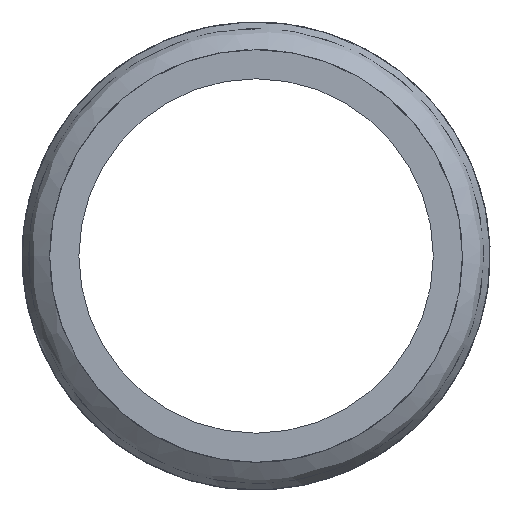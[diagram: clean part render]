
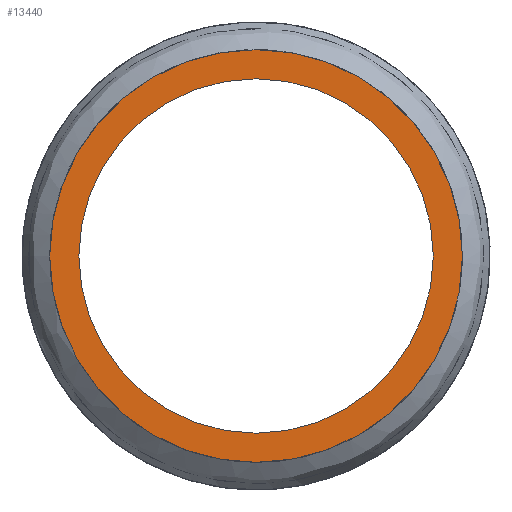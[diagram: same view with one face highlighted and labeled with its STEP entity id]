
A CAD part, front view. The second image highlights one B-rep face of the part: STEP entity #13440.
In plain terms, the highlighted planar face has unit normal (0, -1, 0) as drawn and (0, 1, 0) by its records, which use the part's own axes.
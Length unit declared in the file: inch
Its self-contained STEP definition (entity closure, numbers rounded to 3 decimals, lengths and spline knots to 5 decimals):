
#13378=CARTESIAN_POINT('',(-1.2345,2.5,0.));
#13379=VERTEX_POINT('',#13378);
#13380=CARTESIAN_POINT('',(0.0,2.5,0.0));
#13381=DIRECTION('',(0.0,-1.0,0.0));
#13382=DIRECTION('',(1.0,0.0,0.0));
#13383=AXIS2_PLACEMENT_3D('',#13380,#13381,#13382);
#13384=CIRCLE('',#13383,1.2345);
#13385=EDGE_CURVE('',#13379,#13379,#13384,.T.);
#13406=CARTESIAN_POINT('',(-1.4375,2.5,0.));
#13407=VERTEX_POINT('',#13406);
#13408=CARTESIAN_POINT('',(0.0,2.5,0.0));
#13409=DIRECTION('',(0.0,-1.0,0.0));
#13410=DIRECTION('',(1.0,0.0,0.0));
#13411=AXIS2_PLACEMENT_3D('',#13408,#13409,#13410);
#13412=CIRCLE('',#13411,1.4375);
#13413=EDGE_CURVE('',#13407,#13407,#13412,.T.);
#13429=CARTESIAN_POINT('',(0.0,2.5,0.0));
#13430=DIRECTION('',(0.0,-1.0,0.0));
#13431=DIRECTION('',(0.0,0.0,-1.0));
#13432=AXIS2_PLACEMENT_3D('',#13429,#13430,#13431);
#13433=PLANE('',#13432);
#13434=ORIENTED_EDGE('',*,*,#13413,.F.);
#13435=EDGE_LOOP('',(#13434));
#13436=FACE_OUTER_BOUND('',#13435,.T.);
#13437=ORIENTED_EDGE('',*,*,#13385,.T.);
#13438=EDGE_LOOP('',(#13437));
#13439=FACE_BOUND('',#13438,.T.);
#13440=ADVANCED_FACE('',(#13436,#13439),#13433,.F.);
